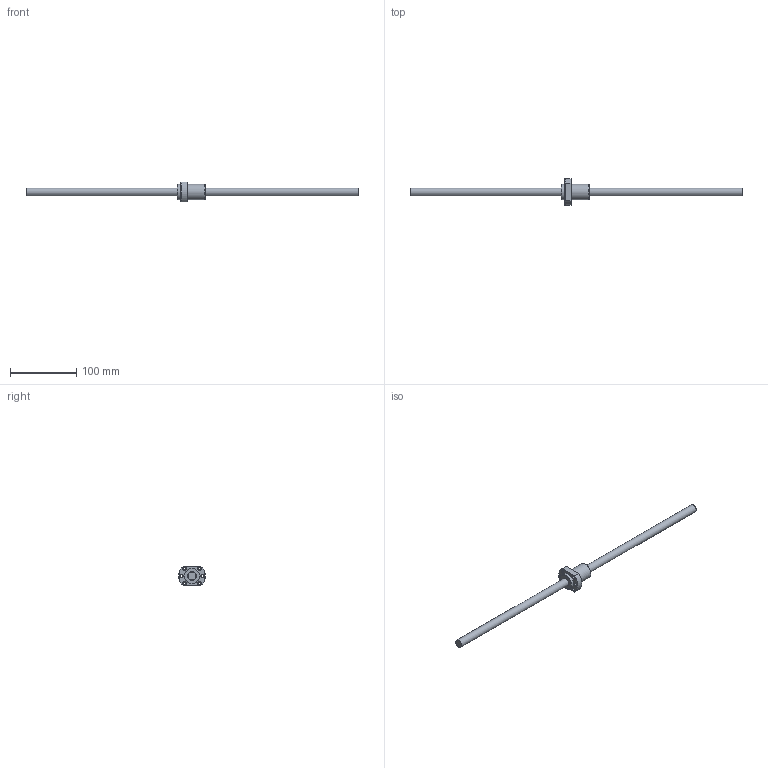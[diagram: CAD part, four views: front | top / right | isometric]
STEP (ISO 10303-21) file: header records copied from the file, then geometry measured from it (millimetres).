
FILE_DESCRIPTION (( 'STEP AP203' ), '1' );
FILE_NAME ('SFA1210-2.8.step', '2024-05-07T07:24:37', ( '' ), ( '' ), 'SwSTEP 2.0', 'SolidWorks 2022', '' );
FILE_SCHEMA (( 'CONFIG_CONTROL_DESIGN' ));
Length unit declared in the file: millimetre
Products named in the file (1): SFA1210-2.8
Bounding box: 500 x 40 x 30 mm (x, y, z)
Volume: 75111.9 mm3; surface area: 26824.1 mm2
Topology: 2 solids, 2 shells, 42 faces, 87 edges, 51 vertices
Faces by surface type: plane 12, cylinder 12, cone 12, torus 6
Full cylindrical faces by diameter (mm): 4.5 x6, 12 x1, 13.1 x1, 24 x2
Entity records: 1151 total; most frequent: CARTESIAN_POINT 243, DIRECTION 182, ORIENTED_EDGE 124, AXIS2_PLACEMENT_3D 85, EDGE_LOOP 82, EDGE_CURVE 62, FACE_OUTER_BOUND 54, VERTEX_POINT 50
